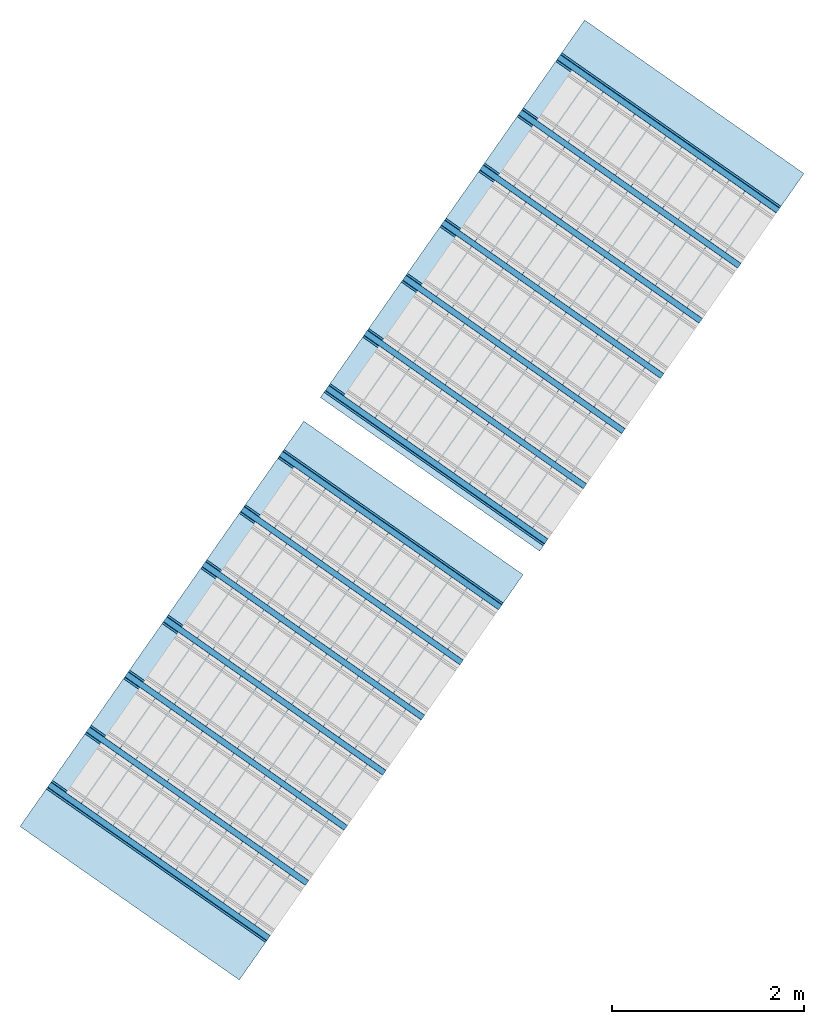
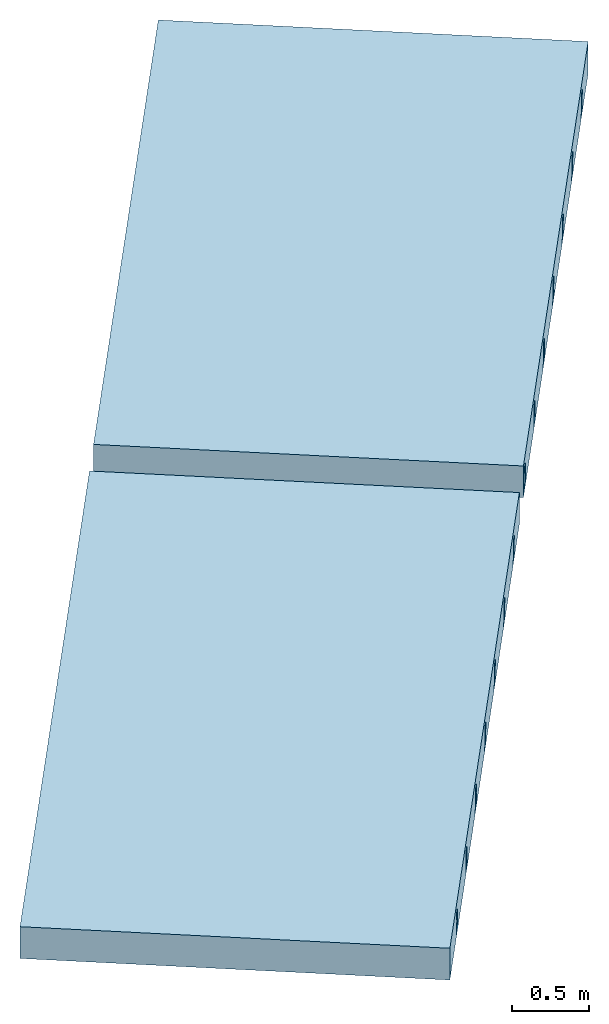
# One storey, part 1 of 8: 14 beams, 2 slabs.
"""IFC2X3 building model written with IfcOpenShell, lengths in metres."""

from ifc_helpers import new_model, entity, si_unit, converted_unit, derived_unit, direction, frame, frame_2d, origin, place, context, subcontext, project, spatial, polyline, rectangle, outline, extrude, material, type_object, element, save


model = new_model("IFC2X3")

# Units and contexts
model_context = context("Model", 3, precision=1e-05, world=origin(), true_north=direction((6.123031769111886e-17, 1.0)))
body_context = subcontext(model_context, "Body", "Model", "MODEL_VIEW")
ifc_project = project(units=[si_unit("LENGTHUNIT", "METRE"), si_unit("AREAUNIT", "SQUARE_METRE"), si_unit("VOLUMEUNIT", "CUBIC_METRE"), converted_unit("PLANEANGLEUNIT", "DEGREE", entity("IfcPlaneAngleMeasure", 0.017453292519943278), si_unit("PLANEANGLEUNIT", "RADIAN"), dimensions=[0, 0, 0, 0, 0, 0, 0]), si_unit("MASSUNIT", "GRAM", prefix="KILO"), derived_unit("MASSDENSITYUNIT", [(si_unit("MASSUNIT", "GRAM", prefix="KILO"), 1), (si_unit("LENGTHUNIT", "METRE"), -3)]), derived_unit("IONCONCENTRATIONUNIT", [(si_unit("MASSUNIT", "GRAM", prefix="KILO"), 1), (si_unit("LENGTHUNIT", "METRE"), -3)]), derived_unit("MOMENTOFINERTIAUNIT", [(si_unit("LENGTHUNIT", "METRE"), 4)]), si_unit("TIMEUNIT", "SECOND"), si_unit("FREQUENCYUNIT", "HERTZ"), si_unit("THERMODYNAMICTEMPERATUREUNIT", "DEGREE_CELSIUS"), derived_unit("THERMALTRANSMITTANCEUNIT", [(si_unit("MASSUNIT", "GRAM", prefix="KILO"), 1), (si_unit("THERMODYNAMICTEMPERATUREUNIT", "KELVIN"), -1), (si_unit("TIMEUNIT", "SECOND"), -3)]), derived_unit("THERMALCONDUCTANCEUNIT", [(si_unit("MASSUNIT", "GRAM", prefix="KILO"), 1), (si_unit("THERMODYNAMICTEMPERATUREUNIT", "KELVIN"), -1), (si_unit("TIMEUNIT", "SECOND"), -3), (si_unit("LENGTHUNIT", "METRE"), 1)]), derived_unit("VOLUMETRICFLOWRATEUNIT", [(si_unit("LENGTHUNIT", "METRE", prefix="DECI"), 3), (si_unit("TIMEUNIT", "SECOND"), -1)]), derived_unit("MASSFLOWRATEUNIT", [(si_unit("MASSUNIT", "GRAM", prefix="KILO"), 1), (si_unit("TIMEUNIT", "SECOND"), -1)]), derived_unit("ROTATIONALFREQUENCYUNIT", [(si_unit("TIMEUNIT", "SECOND"), -1)]), si_unit("ELECTRICCURRENTUNIT", "AMPERE"), si_unit("ELECTRICVOLTAGEUNIT", "VOLT"), si_unit("POWERUNIT", "WATT"), si_unit("FORCEUNIT", "NEWTON", prefix="KILO"), si_unit("ILLUMINANCEUNIT", "LUX"), si_unit("LUMINOUSFLUXUNIT", "LUMEN"), si_unit("LUMINOUSINTENSITYUNIT", "CANDELA"), si_unit("ENERGYUNIT", "JOULE"), derived_unit("USERDEFINED", [(si_unit("MASSUNIT", "GRAM", prefix="KILO"), -1), (si_unit("LENGTHUNIT", "METRE"), -2), (si_unit("TIMEUNIT", "SECOND"), 3), (si_unit("LUMINOUSFLUXUNIT", "LUMEN"), 1)]), derived_unit("USERDEFINED", [(si_unit("MASSUNIT", "GRAM", prefix="KILO"), 1), (si_unit("TIMEUNIT", "SECOND"), -3), (si_unit("LENGTHUNIT", "METRE"), 3), (si_unit("ELECTRICCURRENTUNIT", "AMPERE"), -2)]), derived_unit("SOUNDPOWERUNIT", [(si_unit("MASSUNIT", "GRAM", prefix="KILO"), 1), (si_unit("TIMEUNIT", "SECOND"), -3), (si_unit("LENGTHUNIT", "METRE"), 2)]), derived_unit("SOUNDPRESSUREUNIT", [(si_unit("MASSUNIT", "GRAM", prefix="KILO"), 1), (si_unit("LENGTHUNIT", "METRE"), -1), (si_unit("TIMEUNIT", "SECOND"), -2)]), derived_unit("LINEARVELOCITYUNIT", [(si_unit("LENGTHUNIT", "METRE"), 1), (si_unit("TIMEUNIT", "SECOND"), -1)]), si_unit("PRESSUREUNIT", "PASCAL"), derived_unit("USERDEFINED", [(si_unit("MASSUNIT", "GRAM", prefix="KILO"), 1), (si_unit("LENGTHUNIT", "METRE"), -2), (si_unit("TIMEUNIT", "SECOND"), -2)]), derived_unit("LINEARFORCEUNIT", [(si_unit("MASSUNIT", "GRAM", prefix="KILO"), 1), (si_unit("TIMEUNIT", "SECOND"), -2)]), derived_unit("PLANARFORCEUNIT", [(si_unit("MASSUNIT", "GRAM", prefix="KILO"), 1), (si_unit("LENGTHUNIT", "METRE"), -1), (si_unit("TIMEUNIT", "SECOND"), -2)]), derived_unit("SPECIFICHEATCAPACITYUNIT", [(si_unit("THERMODYNAMICTEMPERATUREUNIT", "KELVIN"), -1), (si_unit("LENGTHUNIT", "METRE"), 2), (si_unit("TIMEUNIT", "SECOND"), -2)]), derived_unit("HEATFLUXDENSITYUNIT", [(si_unit("MASSUNIT", "GRAM", prefix="KILO"), 1), (si_unit("TIMEUNIT", "SECOND"), -3)]), derived_unit("HEATINGVALUEUNIT", [(si_unit("LENGTHUNIT", "METRE"), 2), (si_unit("TIMEUNIT", "SECOND"), -2)]), derived_unit("VAPORPERMEABILITYUNIT", [(si_unit("LENGTHUNIT", "METRE"), -1), (si_unit("TIMEUNIT", "SECOND"), 1)]), derived_unit("DYNAMICVISCOSITYUNIT", [(si_unit("MASSUNIT", "GRAM", prefix="KILO"), 1), (si_unit("TIMEUNIT", "SECOND"), -1), (si_unit("LENGTHUNIT", "METRE"), -1)]), derived_unit("THERMALEXPANSIONCOEFFICIENTUNIT", [(si_unit("THERMODYNAMICTEMPERATUREUNIT", "KELVIN"), -1)]), derived_unit("MODULUSOFELASTICITYUNIT", [(si_unit("MASSUNIT", "GRAM", prefix="KILO"), 1), (si_unit("LENGTHUNIT", "METRE"), -1), (si_unit("TIMEUNIT", "SECOND"), -2)]), derived_unit("ISOTHERMALMOISTURECAPACITYUNIT", [(si_unit("MASSUNIT", "GRAM", prefix="KILO"), -1), (si_unit("LENGTHUNIT", "METRE"), 3)]), derived_unit("MOISTUREDIFFUSIVITYUNIT", [(si_unit("TIMEUNIT", "SECOND"), -1), (si_unit("LENGTHUNIT", "METRE"), 2)]), derived_unit("MASSPERLENGTHUNIT", [(si_unit("MASSUNIT", "GRAM", prefix="KILO"), 1), (si_unit("LENGTHUNIT", "METRE"), -1)]), derived_unit("THERMALRESISTANCEUNIT", [(si_unit("MASSUNIT", "GRAM", prefix="KILO"), -1), (si_unit("TIMEUNIT", "SECOND"), 3), (si_unit("THERMODYNAMICTEMPERATUREUNIT", "KELVIN"), 1)]), derived_unit("ACCELERATIONUNIT", [(si_unit("LENGTHUNIT", "METRE"), 1), (si_unit("TIMEUNIT", "SECOND"), -2)]), derived_unit("ANGULARVELOCITYUNIT", [(si_unit("TIMEUNIT", "SECOND"), -1), (si_unit("PLANEANGLEUNIT", "RADIAN"), 1)]), derived_unit("LINEARSTIFFNESSUNIT", [(si_unit("MASSUNIT", "GRAM", prefix="KILO"), 1), (si_unit("TIMEUNIT", "SECOND"), -2)]), derived_unit("WARPINGCONSTANTUNIT", [(si_unit("LENGTHUNIT", "METRE"), 6)]), derived_unit("LINEARMOMENTUNIT", [(si_unit("MASSUNIT", "GRAM", prefix="KILO"), 1), (si_unit("LENGTHUNIT", "METRE"), 1), (si_unit("TIMEUNIT", "SECOND"), -2)]), derived_unit("TORQUEUNIT", [(si_unit("MASSUNIT", "GRAM", prefix="KILO"), 1), (si_unit("LENGTHUNIT", "METRE"), 2), (si_unit("TIMEUNIT", "SECOND"), -2)])], contexts=[model_context])

# Site, building, storey
site_placement = place(None, origin())
site = spatial("IfcSite", under=ifc_project, at=site_placement, Name="Default", CompositionType="ELEMENT")
building_placement = place(site_placement, origin())
building = spatial("IfcBuilding", under=site, at=building_placement, CompositionType="ELEMENT")
storey_placement = place(building_placement, frame((0.0, 0.0, 93.64)))
storey = spatial("IfcBuildingStorey", under=building, at=storey_placement, Name="Depósito_", CompositionType="ELEMENT", Elevation=93.64)

# Beams
ifc_material = material(Name="Hormigón armado")
beam_1_placement = place(storey_placement, origin())
element("IfcBeam", 1, at=beam_1_placement, inside=storey, material=ifc_material, Name="Vigueta 1 (Paño 1) (1xT-18|T-0)", ObjectType="1xT-18|T-0", context=body_context, shape_type="SweptSolid", body=[
    extrude(outline(polyline([(-0.05183568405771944, -0.01988433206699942), (-0.07767864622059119, -0.01183217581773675), (-0.09569729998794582, -0.03581817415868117), (-0.007748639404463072, -0.10188657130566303), (0.010270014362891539, -0.07790057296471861), (-0.0046609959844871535, -0.05532268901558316), (-0.00631797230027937, -0.04960858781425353), (-0.004435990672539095, -0.04396459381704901), (0.03453850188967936, 0.010180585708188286), (0.06335085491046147, 0.02605818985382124), (0.08136950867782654, 0.05004418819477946), (0.080374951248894, 0.057044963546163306), (0.032402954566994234, 0.09308227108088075), (0.02540217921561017, 0.0920877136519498), (0.007383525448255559, 0.06810171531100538), (0.00015857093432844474, 0.03600732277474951), (-0.04098964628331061, -0.01650492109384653), (-0.045886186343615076, -0.019884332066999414), (-0.05183568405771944, -0.01988433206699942)])), frame((-1.0581600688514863, 2.8056059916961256, 2.1361157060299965), z_axis=(-0.8191520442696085, 0.5735764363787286, 0.0), x_axis=(-0.4585934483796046, -0.654939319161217, 0.6006217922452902)), (0.0, 0.0, -1.0), 2.784448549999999),
])
beam_2_placement = place(storey_placement, origin())
element("IfcBeam", 2, at=beam_2_placement, inside=storey, material=ifc_material, Name="Vigueta 2 (Paño 1) (1xT-18|T-0)", ObjectType="1xT-18|T-0", context=body_context, shape_type="SweptSolid", body=[
    extrude(outline(polyline([(-0.05183568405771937, -0.019884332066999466), (-0.07767864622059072, -0.01183217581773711), (-0.09569729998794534, -0.03581817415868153), (-0.007748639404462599, -0.10188657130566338), (0.010270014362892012, -0.07790057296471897), (-0.004660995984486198, -0.055322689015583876), (-0.006317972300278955, -0.04960858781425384), (-0.004435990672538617, -0.04396459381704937), (0.034538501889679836, 0.010180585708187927), (0.06335085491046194, 0.026058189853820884), (0.08136950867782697, 0.05004418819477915), (0.08037495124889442, 0.057044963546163), (0.03240295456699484, 0.09308227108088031), (0.025402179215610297, 0.0920877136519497), (0.007383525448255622, 0.06810171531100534), (0.00015857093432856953, 0.03600732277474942), (-0.040989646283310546, -0.01650492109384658), (-0.04588618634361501, -0.019884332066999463), (-0.05183568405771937, -0.019884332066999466)])), frame((-0.6566565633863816, 3.3790124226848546, 2.1361157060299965), z_axis=(-0.8191520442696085, 0.5735764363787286, 0.0), x_axis=(-0.4585934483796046, -0.654939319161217, 0.6006217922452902)), (0.0, 0.0, -1.0), 2.7844485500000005),
])
beam_3_placement = place(storey_placement, origin())
element("IfcBeam", 3, at=beam_3_placement, inside=storey, material=ifc_material, Name="Vigueta 3 (Paño 1) (1xT-18|T-0)", ObjectType="1xT-18|T-0", context=body_context, shape_type="SweptSolid", body=[
    extrude(outline(polyline([(-0.05183568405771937, -0.019884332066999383), (-0.07767864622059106, -0.011832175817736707), (-0.09569729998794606, -0.03581817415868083), (-0.007748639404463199, -0.10188657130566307), (0.010270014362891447, -0.07790057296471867), (-0.004660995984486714, -0.055322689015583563), (-0.006317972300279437, -0.049608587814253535), (-0.004435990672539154, -0.043964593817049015), (0.03453850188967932, 0.010180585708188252), (0.06335085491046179, 0.026058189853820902), (0.08136950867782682, 0.05004418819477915), (0.08037495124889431, 0.05704496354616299), (0.03240295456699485, 0.09308227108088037), (0.025402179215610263, 0.09208771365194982), (0.007383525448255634, 0.06810171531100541), (0.00015857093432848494, 0.03600732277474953), (-0.04098964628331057, -0.016504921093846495), (-0.04588618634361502, -0.019884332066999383), (-0.05183568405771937, -0.019884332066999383)])), frame((-0.2551530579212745, 3.9524188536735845, 2.1361157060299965), z_axis=(-0.8191520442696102, 0.5735764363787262, 0.0), x_axis=(-0.4585934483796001, -0.6549393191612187, 0.6006217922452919)), (0.0, 0.0, -1.0), 2.784448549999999),
])
beam_4_placement = place(storey_placement, origin())
element("IfcBeam", 4, at=beam_4_placement, inside=storey, material=ifc_material, Name="Vigueta 4 (Paño 1) (1xT-18|T-0)", ObjectType="1xT-18|T-0", context=body_context, shape_type="SweptSolid", body=[
    extrude(outline(polyline([(-0.05183568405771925, -0.01988433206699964), (-0.07767864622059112, -0.011832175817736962), (-0.09569729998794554, -0.03581817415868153), (-0.007748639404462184, -0.10188657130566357), (0.010270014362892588, -0.07790057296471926), (-0.004660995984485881, -0.05532268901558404), (-0.006317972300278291, -0.04960858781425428), (-0.004435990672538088, -0.04396459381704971), (0.034538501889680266, 0.010180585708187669), (0.06335085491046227, 0.02605818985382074), (0.0813695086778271, 0.050044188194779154), (0.08037495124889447, 0.057044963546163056), (0.03240295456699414, 0.09308227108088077), (0.025402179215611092, 0.09208771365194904), (0.007383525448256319, 0.06810171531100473), (0.00015857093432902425, 0.03600732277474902), (-0.04098964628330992, -0.01650492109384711), (-0.04588618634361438, -0.019884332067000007), (-0.05183568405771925, -0.01988433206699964)])), frame((0.14635044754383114, 4.5258252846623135, 2.1361157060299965), z_axis=(-0.8191520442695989, 0.5735764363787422, 0.0), x_axis=(-0.458593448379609, -0.6549393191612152, 0.6006217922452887)), (0.0, 0.0, -1.0), 2.784448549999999),
])
beam_5_placement = place(storey_placement, origin())
element("IfcBeam", 5, at=beam_5_placement, inside=storey, material=ifc_material, Name="Vigueta 5 (Paño 1) (1xT-18|T-0)", ObjectType="1xT-18|T-0", context=body_context, shape_type="SweptSolid", body=[
    extrude(outline(polyline([(-0.051835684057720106, -0.01988433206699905), (-0.07767864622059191, -0.011832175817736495), (-0.09569729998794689, -0.03581817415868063), (-0.00774863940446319, -0.10188657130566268), (0.010270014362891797, -0.07790057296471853), (-0.0046609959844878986, -0.05532268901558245), (-0.006317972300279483, -0.04960858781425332), (-0.004435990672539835, -0.04396459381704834), (0.03453850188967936, 0.010180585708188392), (0.06335085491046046, 0.026058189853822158), (0.08136950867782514, 0.05004418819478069), (0.08037495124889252, 0.05704496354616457), (0.032402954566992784, 0.0930822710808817), (0.02540217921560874, 0.0920877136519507), (0.007383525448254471, 0.06810171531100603), (0.00015857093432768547, 0.036007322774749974), (-0.04098964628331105, -0.016504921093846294), (-0.04588618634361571, -0.01988433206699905), (-0.051835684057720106, -0.01988433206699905)])), frame((0.5478539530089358, 5.09923171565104, 2.1361157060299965), z_axis=(-0.8191520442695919, 0.5735764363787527, 0.0), x_axis=(-0.4585934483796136, -0.6549393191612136, 0.6006217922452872)), (0.0, 0.0, -1.0), 2.78444855),
])
beam_6_placement = place(storey_placement, origin())
element("IfcBeam", 6, at=beam_6_placement, inside=storey, material=ifc_material, Name="Vigueta 6 (Paño 1) (1xT-18|T-0)", ObjectType="1xT-18|T-0", context=body_context, shape_type="SweptSolid", body=[
    extrude(outline(polyline([(-0.051835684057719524, -0.019884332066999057), (-0.0776786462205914, -0.011832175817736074), (-0.0956972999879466, -0.03581817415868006), (-0.007748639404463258, -0.10188657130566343), (0.01027001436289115, -0.07790057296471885), (-0.00466099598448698, -0.05532268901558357), (-0.006317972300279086, -0.04960858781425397), (-0.00443599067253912, -0.0439645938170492), (0.0345385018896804, 0.010180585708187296), (0.06335085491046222, 0.02605818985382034), (0.08136950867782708, 0.05004418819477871), (0.08037495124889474, 0.05704496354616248), (0.032402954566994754, 0.09308227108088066), (0.02540217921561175, 0.09208771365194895), (0.007383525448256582, 0.06810171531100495), (0.00015857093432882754, 0.036007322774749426), (-0.04098964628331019, -0.016504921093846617), (-0.04588618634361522, -0.019884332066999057), (-0.051835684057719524, -0.019884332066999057)])), frame((0.9493574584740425, 5.672638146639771, 2.1361157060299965), z_axis=(-0.8191520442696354, 0.5735764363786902, 0.0), x_axis=(-0.4585934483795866, -0.6549393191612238, 0.6006217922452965)), (0.0, 0.0, -1.0), 2.784448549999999),
])
beam_7_placement = place(storey_placement, origin())
element("IfcBeam", 7, at=beam_7_placement, inside=storey, material=ifc_material, Name="Vigueta 7 (Paño 1) (1xT-18|T-0)", ObjectType="1xT-18|T-0", context=body_context, shape_type="SweptSolid", body=[
    extrude(outline(polyline([(-0.051835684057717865, -0.01988433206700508), (-0.07767864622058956, -0.011832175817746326), (-0.09569729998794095, -0.035818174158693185), (-0.007748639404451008, -0.10188657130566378), (0.010270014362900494, -0.07790057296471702), (-0.00466099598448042, -0.05532268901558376), (-0.006317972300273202, -0.04960858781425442), (-0.00443599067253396, -0.043964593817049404), (0.03453850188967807, 0.010180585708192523), (0.0633508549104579, 0.026058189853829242), (0.0813695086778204, 0.05004418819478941), (0.0803749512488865, 0.05704496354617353), (0.03240295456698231, 0.09308227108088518), (0.02540217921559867, 0.09208771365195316), (0.007383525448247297, 0.0681017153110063), (0.00015857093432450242, 0.03600732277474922), (-0.040989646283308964, -0.016504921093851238), (-0.045886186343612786, -0.019884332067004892), (-0.051835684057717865, -0.01988433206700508)])), frame((1.3508609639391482, 6.246044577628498, 2.1361157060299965), z_axis=(-0.819152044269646, 0.5735764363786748, 0.0), x_axis=(-0.4585934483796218, -0.6549393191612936, 0.6006217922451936)), (0.0, 0.0, -1.0), 2.784448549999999),
])
beam_8_placement = place(storey_placement, origin())
element("IfcBeam", 8, at=beam_8_placement, inside=storey, material=ifc_material, Name="Vigueta 1 (Paño 2) (1xT-18|T-0)", ObjectType="1xT-18|T-0", context=body_context, shape_type="SweptSolid", body=[
    extrude(outline(polyline([(-0.051835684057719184, -0.019884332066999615), (-0.07767864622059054, -0.011832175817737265), (-0.0956972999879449, -0.03581817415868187), (-0.007748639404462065, -0.10188657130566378), (0.010270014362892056, -0.077900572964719), (-0.004660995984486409, -0.05532268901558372), (-0.006317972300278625, -0.04960858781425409), (-0.0044359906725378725, -0.04396459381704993), (0.03453850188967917, 0.010180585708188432), (0.06335085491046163, 0.02605818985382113), (0.0813695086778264, 0.05004418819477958), (0.08037495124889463, 0.057044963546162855), (0.032402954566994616, 0.09308227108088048), (0.025402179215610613, 0.09208771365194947), (0.007383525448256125, 0.06810171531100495), (0.0001585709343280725, 0.036007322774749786), (-0.04098964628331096, -0.016504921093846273), (-0.04588618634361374, -0.01988433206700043), (-0.051835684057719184, -0.019884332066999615)])), frame((1.8309444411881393, 6.931674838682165, 2.1361157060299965), z_axis=(-0.8191520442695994, 0.5735764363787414, 0.0), x_axis=(-0.4585934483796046, -0.654939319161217, 0.6006217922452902)), (0.0, 0.0, -1.0), 2.7844485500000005),
])
beam_9_placement = place(storey_placement, origin())
element("IfcBeam", 9, at=beam_9_placement, inside=storey, material=ifc_material, Name="Vigueta 2 (Paño 2) (1xT-18|T-0)", ObjectType="1xT-18|T-0", context=body_context, shape_type="SweptSolid", body=[
    extrude(outline(polyline([(-0.051835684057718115, -0.019884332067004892), (-0.07767864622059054, -0.011832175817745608), (-0.0956972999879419, -0.03581817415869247), (-0.0077486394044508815, -0.10188657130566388), (0.010270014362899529, -0.0779005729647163), (-0.004660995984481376, -0.055322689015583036), (-0.006317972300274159, -0.0496085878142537), (-0.004435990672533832, -0.04396459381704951), (0.03453850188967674, 0.010180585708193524), (0.06335085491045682, 0.026058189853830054), (0.08136950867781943, 0.05004418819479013), (0.08037495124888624, 0.057044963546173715), (0.03240295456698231, 0.09308227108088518), (0.02540217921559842, 0.09208771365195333), (0.007383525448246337, 0.06810171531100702), (0.00015857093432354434, 0.03600732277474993), (-0.040989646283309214, -0.01650492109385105), (-0.045886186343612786, -0.019884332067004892), (-0.051835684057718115, -0.019884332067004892)])), frame((2.2324479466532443, 7.505081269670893, 2.1361157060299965), z_axis=(-0.819152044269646, 0.5735764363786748, 0.0), x_axis=(-0.4585934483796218, -0.6549393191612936, 0.6006217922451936)), (0.0, 0.0, -1.0), 2.78444855),
])
beam_10_placement = place(storey_placement, origin())
element("IfcBeam", 10, at=beam_10_placement, inside=storey, material=ifc_material, Name="Vigueta 3 (Paño 2) (1xT-18|T-0)", ObjectType="1xT-18|T-0", context=body_context, shape_type="SweptSolid", body=[
    extrude(outline(polyline([(-0.05183568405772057, -0.019884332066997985), (-0.07767864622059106, -0.011832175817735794), (-0.09569729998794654, -0.03581817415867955), (-0.007748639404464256, -0.10188657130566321), (0.010270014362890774, -0.07790057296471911), (-0.0046609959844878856, -0.05532268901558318), (-0.006317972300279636, -0.049608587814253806), (-0.004435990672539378, -0.04396459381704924), (0.03453850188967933, 0.010180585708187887), (0.06335085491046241, 0.026058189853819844), (0.08136950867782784, 0.0500441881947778), (0.08037495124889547, 0.05704496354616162), (0.03240295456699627, 0.09308227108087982), (0.025402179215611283, 0.09208771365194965), (0.00738352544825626, 0.06810171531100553), (0.00015857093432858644, 0.036007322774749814), (-0.04098964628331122, -0.016504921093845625), (-0.045886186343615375, -0.019884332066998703), (-0.05183568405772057, -0.019884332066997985)])), frame((2.6339514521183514, 8.078487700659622, 2.1361157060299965), z_axis=(-0.8191520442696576, 0.5735764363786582, 0.0), x_axis=(-0.4585934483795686, -0.6549393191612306, 0.6006217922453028)), (0.0, 0.0, -1.0), 2.784448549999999),
])
beam_11_placement = place(storey_placement, origin())
element("IfcBeam", 11, at=beam_11_placement, inside=storey, material=ifc_material, Name="Vigueta 4 (Paño 2) (1xT-18|T-0)", ObjectType="1xT-18|T-0", context=body_context, shape_type="SweptSolid", body=[
    extrude(outline(polyline([(-0.05183568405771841, -0.01988433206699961), (-0.07767864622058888, -0.011832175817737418), (-0.09569729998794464, -0.035818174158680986), (-0.007748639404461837, -0.10188657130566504), (0.01027001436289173, -0.07790057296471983), (-0.00466099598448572, -0.05532268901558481), (-0.00631797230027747, -0.049608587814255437), (-0.0044359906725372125, -0.04396459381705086), (0.03453850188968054, 0.01018058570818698), (0.06335085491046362, 0.026058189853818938), (0.0813695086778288, 0.05004418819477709), (0.08037495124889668, 0.05704496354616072), (0.03240295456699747, 0.09308227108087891), (0.025402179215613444, 0.09208771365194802), (0.007383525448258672, 0.06810171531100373), (0.00015857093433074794, 0.03600732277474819), (-0.04098964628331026, -0.016504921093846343), (-0.0458861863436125, -0.01988433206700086), (-0.05183568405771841, -0.01988433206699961)])), frame((3.0354549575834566, 8.651894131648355, 2.1361157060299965), z_axis=(-0.8191520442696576, 0.5735764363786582, 0.0), x_axis=(-0.4585934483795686, -0.6549393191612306, 0.6006217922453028)), (0.0, 0.0, -1.0), 2.784448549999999),
])
beam_12_placement = place(storey_placement, origin())
element("IfcBeam", 12, at=beam_12_placement, inside=storey, material=ifc_material, Name="Vigueta 5 (Paño 2) (1xT-18|T-0)", ObjectType="1xT-18|T-0", context=body_context, shape_type="SweptSolid", body=[
    extrude(outline(polyline([(-0.05183568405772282, -0.019884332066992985), (-0.07767864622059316, -0.011832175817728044), (-0.09569729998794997, -0.035818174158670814), (-0.007748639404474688, -0.10188657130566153), (0.010270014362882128, -0.07790057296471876), (-0.004660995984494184, -0.05532268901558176), (-0.006317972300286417, -0.04960858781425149), (-0.004435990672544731, -0.04396459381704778), (0.03453850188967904, 0.010180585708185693), (0.06335085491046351, 0.026058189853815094), (0.08136950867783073, 0.0500441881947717), (0.08037495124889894, 0.057044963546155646), (0.0324029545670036, 0.09308227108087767), (0.025402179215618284, 0.0920877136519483), (0.007383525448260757, 0.06810171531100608), (0.00015857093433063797, 0.03600732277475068), (-0.04098964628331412, -0.016504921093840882), (-0.04588618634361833, -0.019884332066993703), (-0.05183568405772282, -0.019884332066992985)])), frame((3.4369584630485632, 9.225300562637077, 2.1361157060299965), z_axis=(-0.8191520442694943, 0.5735764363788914, 0.0), x_axis=(-0.4585934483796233, -0.6549393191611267, 0.6006217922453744)), (0.0, 0.0, -1.0), 2.784448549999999),
])
beam_13_placement = place(storey_placement, origin())
element("IfcBeam", 13, at=beam_13_placement, inside=storey, material=ifc_material, Name="Vigueta 6 (Paño 2) (1xT-18|T-0)", ObjectType="1xT-18|T-0", context=body_context, shape_type="SweptSolid", body=[
    extrude(outline(polyline([(-0.051835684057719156, -0.019884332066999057), (-0.07767864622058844, -0.011832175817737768), (-0.09569729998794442, -0.03581817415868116), (-0.007748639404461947, -0.10188657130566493), (0.01027001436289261, -0.0779005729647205), (-0.004660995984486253, -0.05532268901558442), (-0.006317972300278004, -0.04960858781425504), (-0.0044359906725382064, -0.04396459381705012), (0.034538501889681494, 0.010180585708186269), (0.0633508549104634, 0.02605818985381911), (0.08136950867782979, 0.05004418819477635), (0.08037495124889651, 0.05704496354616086), (0.03240295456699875, 0.09308227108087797), (0.02540217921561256, 0.09208771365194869), (0.007383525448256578, 0.0681017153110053), (0.00015857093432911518, 0.03600732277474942), (-0.040989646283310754, -0.016504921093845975), (-0.04588618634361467, -0.019884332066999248), (-0.051835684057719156, -0.019884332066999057)])), frame((3.838461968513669, 9.79870699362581, 2.1361157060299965), z_axis=(-0.8191520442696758, 0.5735764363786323, 0.0), x_axis=(-0.4585934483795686, -0.6549393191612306, 0.6006217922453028)), (0.0, 0.0, -1.0), 2.784448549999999),
])
beam_14_placement = place(storey_placement, origin())
element("IfcBeam", 14, at=beam_14_placement, inside=storey, material=ifc_material, Name="Vigueta 7 (Paño 2) (1xT-18|T-0)", ObjectType="1xT-18|T-0", context=body_context, shape_type="SweptSolid", body=[
    extrude(outline(polyline([(-0.05183568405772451, -0.019884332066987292), (-0.07767864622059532, -0.011832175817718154), (-0.09569729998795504, -0.03581817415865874), (-0.007748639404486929, -0.10188657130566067), (0.010270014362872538, -0.07790057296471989), (-0.004660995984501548, -0.05532268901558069), (-0.00631797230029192, -0.0496085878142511), (-0.004435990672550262, -0.043964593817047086), (0.03453850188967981, 0.01018058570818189), (0.06335085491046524, 0.026058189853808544), (0.0813695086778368, 0.050044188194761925), (0.08037495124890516, 0.057044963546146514), (0.03240295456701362, 0.09308227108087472), (0.025402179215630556, 0.0920877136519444), (0.00738352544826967, 0.06810171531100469), (0.00015857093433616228, 0.03600732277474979), (-0.04098964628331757, -0.016504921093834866), (-0.04588618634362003, -0.019884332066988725), (-0.05183568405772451, -0.019884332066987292)])), frame((4.239965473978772, 10.372113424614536, 2.1361157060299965), z_axis=(-0.8191520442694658, 0.5735764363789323, 0.0), x_axis=(-0.4585934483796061, -0.6549393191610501, 0.6006217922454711)), (0.0, 0.0, -1.0), 2.784448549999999),
])

# Slabs
slab_type = type_object("IfcSlabType", Name="Forma directa:DirectShapeType 1092", PredefinedType="FLOOR")
slab_1_placement = place(storey_placement, origin())
element("IfcSlab", 15, at=slab_1_placement, inside=storey, type_object=slab_type, Name="Forma directa:DirectShapeType 1092", ObjectType="Forma directa:DirectShapeType 1092", PredefinedType="FLOOR", context=body_context, shape_type="SweptSolid", body=[
    extrude(rectangle(XDim=5.146204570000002, YDim=2.7844485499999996, at=frame_2d((0.03873673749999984, 0.0), x_axis=(1.0, 0.0))), frame((1.2756861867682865, 3.7114149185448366, 2.050000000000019), z_axis=(0.0, 0.0, 1.0), x_axis=(-0.5735764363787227, -0.8191520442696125, 0.0)), (0.0, 0.0, 1.0), 0.2499999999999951),
])
slab_2_placement = place(storey_placement, origin())
element("IfcSlab", 16, at=slab_2_placement, inside=storey, type_object=slab_type, Name="Forma directa:DirectShapeType 1092", ObjectType="Forma directa:DirectShapeType 1092", PredefinedType="FLOOR", context=body_context, shape_type="SweptSolid", body=[
    extrude(rectangle(XDim=4.792999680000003, YDim=2.784448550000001, at=frame_2d((-0.11579517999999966, 2.220446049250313e-16), x_axis=(1.0, 0.0))), frame((4.20956992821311, 7.901435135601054, 2.050000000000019), z_axis=(0.0, 0.0, 1.0), x_axis=(-0.5735764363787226, -0.8191520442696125, 0.0)), (0.0, 0.0, 1.0), 0.24999999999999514),
])

save(model, "model.ifc")
